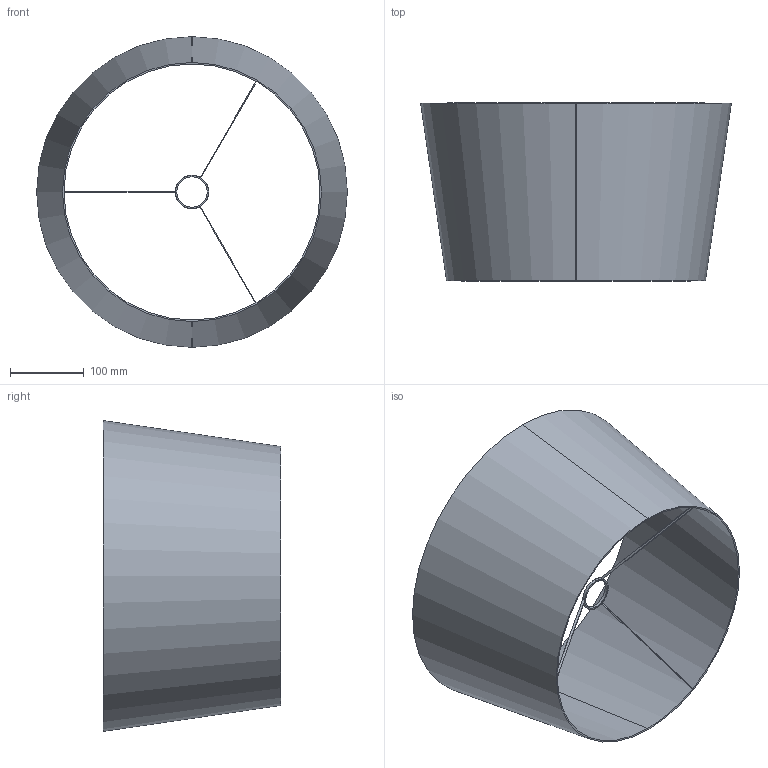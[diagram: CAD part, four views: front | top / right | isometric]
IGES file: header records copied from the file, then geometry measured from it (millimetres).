
Start section: SolidWorks IGES file using analytic representation for surfaces
Global section: file name: C:\Users\a.sempere\Desktop\PANTALLAS\A-PANTALLAS-TELA\5PANT0023B\5PANT0023B.IGS; native system: SolidWorks 2024; preprocessor: SolidWorks 2024; author: a.sempere; date: 250120.124158; units: millimetre
Bounding box: 420 x 240.29 x 420 mm (x, y, z)
Surface area: 594820.2 mm2 (no closed solid volume)
Topology: 0 solids, 0 shells, 32 faces, 376 edges, 376 vertices
Faces by surface type: bspline 20, revolution 12
